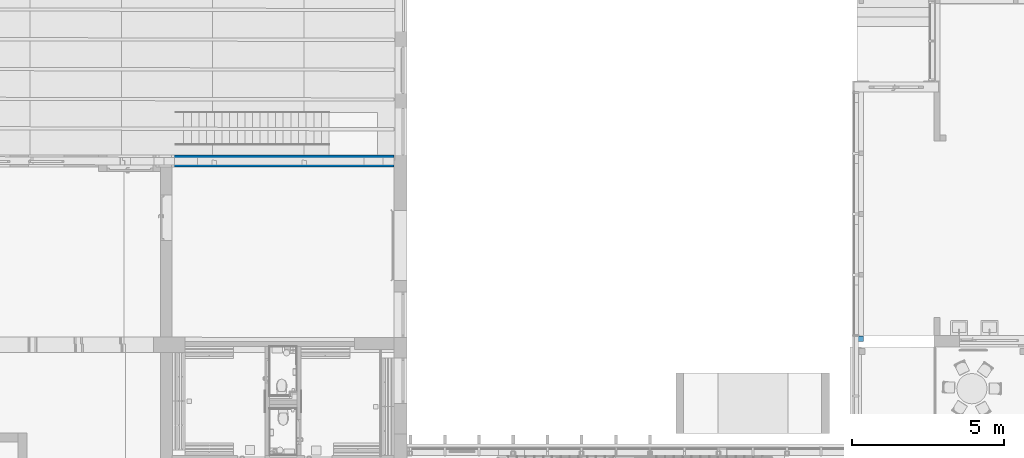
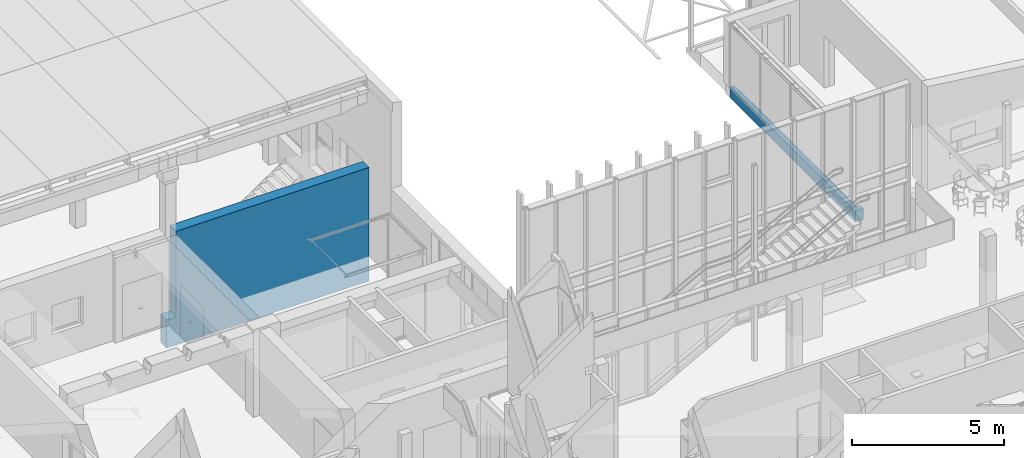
# One storey, part 132 of 301: 2 walls.
"""IFC2X3 building model written with IfcOpenShell, lengths in millimetres."""

from ifc_helpers import new_model, entity, si_unit, converted_unit, derived_unit, money_unit, direction, frame, origin_with_axes, place, context, subcontext, project, spatial, faceted_brep, material, type_object, element, save


model = new_model("IFC2X3")

# Units and contexts
model_context = context("Model", 3, precision=0.01, world=origin_with_axes(), true_north=direction((0.0, 1.0)))
body_context = subcontext(model_context, "Body", "Model", "MODEL_VIEW")
ifc_project = project(units=[si_unit("LENGTHUNIT", "METRE", prefix="MILLI"), si_unit("AREAUNIT", "SQUARE_METRE"), si_unit("VOLUMEUNIT", "CUBIC_METRE"), converted_unit("PLANEANGLEUNIT", "DEGREE", entity("IfcPlaneAngleMeasure", 0.0174532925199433), si_unit("PLANEANGLEUNIT", "RADIAN"), dimensions=[0, 0, 0, 0, 0, 0, 0]), money_unit("EUR"), converted_unit("TIMEUNIT", "Year", entity("IfcTimeMeasure", 31557600.0), si_unit("TIMEUNIT", "SECOND"), dimensions=[0, 0, 1, 0, 0, 0, 0]), si_unit("MASSUNIT", "GRAM", prefix="KILO"), si_unit("THERMODYNAMICTEMPERATUREUNIT", "DEGREE_CELSIUS"), si_unit("LUMINOUSINTENSITYUNIT", "LUMEN"), si_unit("ENERGYUNIT", "JOULE", prefix="MEGA"), derived_unit("THERMALCONDUCTANCEUNIT", [(si_unit("POWERUNIT", "WATT"), 1), (si_unit("LENGTHUNIT", "METRE"), -1), (si_unit("THERMODYNAMICTEMPERATUREUNIT", "KELVIN"), -1)]), derived_unit("SPECIFICHEATCAPACITYUNIT", [(si_unit("ENERGYUNIT", "JOULE"), 1), (si_unit("MASSUNIT", "GRAM", prefix="KILO"), -1), (si_unit("THERMODYNAMICTEMPERATUREUNIT", "KELVIN"), -1)]), derived_unit("MASSDENSITYUNIT", [(si_unit("MASSUNIT", "GRAM", prefix="KILO"), 1), (si_unit("VOLUMEUNIT", "CUBIC_METRE"), -1)])], contexts=[model_context])

# Site, building, storey
site_placement = place(None, frame((0.0, 0.0, 8650.0), z_axis=(0.0, 0.0, 1.0), x_axis=(1.0, 0.0, 0.0)))
site = spatial("IfcSite", under=ifc_project, at=site_placement, Name="43301:001:0844", CompositionType="ELEMENT")
building_placement = place(site_placement, origin_with_axes())
building = spatial("IfcBuilding", under=site, at=building_placement, Name="Kuressaare Ametikooli tuulikute mehaanikute õppekorpus", CompositionType="ELEMENT")
storey_placement = place(building_placement, origin_with_axes())
storey = spatial("IfcBuildingStorey", under=building, at=storey_placement, Name="1.korrus", CompositionType="ELEMENT", Elevation=0.0)

# Walls
ifc_material = material(Name="GENEERILINE - KONSTRUKTRIOON")
wall_type_1 = type_object("IfcWallType", Name="GENEERILINE - KONSTRUKTRIOON 310", PredefinedType="NOTDEFINED")
wall_1_placement = place(storey_placement, frame((118344.9290755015, 40646.6348696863, -450.0), z_axis=(0.0, 0.0, 1.0), x_axis=(0.0, -1.0, 0.0)))
element("IfcWall", 1, at=wall_1_placement, inside=storey, type_object=wall_type_1, material=ifc_material, Name="VS-XX", context=body_context, shape_type="Brep", body=[
    faceted_brep([(328.000000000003, 0.0, 450.0), (328.000000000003, 149.6199638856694, 450.0), (328.000000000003, 149.6199638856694, 250.0), (328.000000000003, 310.0000000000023, 250.0), (328.000000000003, 310.0000000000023, 0.0), (328.000000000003, 0.0, 0.0), (8353.922567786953, 304.1158147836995, 450.0), (8356.976217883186, 149.6199638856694, 450.0), (8537.807639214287, 0.0, 450.0), (8537.807639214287, 310.0000000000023, 450.0), (8337.807625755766, 310.0000000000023, 450.0), (8337.807625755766, 304.1158147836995, 450.0), (8356.976217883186, 149.6199638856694, 250.0), (8337.807625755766, 304.1158147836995, 250.0), (8337.807625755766, 310.0000000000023, 250.0), (8353.922567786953, 304.1158147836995, 250.0), (8537.807639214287, 310.0000000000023, 0.0), (8537.807639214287, 0.0, 0.0)], [[[0, 1, 2, 3, 4, 5]], [[6, 7, 1, 0, 8, 9, 10, 11]], [[12, 2, 1, 7]], [[13, 14, 3, 2, 12, 15]], [[3, 14, 10, 9, 16, 4]], [[5, 4, 16, 17]], [[0, 5, 17, 8]], [[12, 7, 6, 15]], [[8, 17, 16, 9]], [[13, 11, 10, 14]], [[15, 6, 11, 13]]]),
])
wall_type_2 = type_object("IfcWallType", Name="GENEERILINE - KONSTRUKTRIOON 400", PredefinedType="NOTDEFINED")
wall_2_placement = place(storey_placement, frame((103647.5122070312, 37845.7716648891, -1000.0), z_axis=(0.0, 0.0, 1.0), x_axis=(-1.0, 0.0, 0.0)))
element("IfcWall", 2, at=wall_2_placement, inside=storey, type_object=wall_type_2, material=ifc_material, context=body_context, shape_type="Brep", body=[
    faceted_brep([(8099.611090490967, -399.9999999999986, 0.0), (8099.611090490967, -399.9999999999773, 1130.0), (7745.463637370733, -399.9999999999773, 1130.0), (7745.463637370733, -399.9999999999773, 4560.000000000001), (420.0000000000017, -399.9999999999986, 4560.000000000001), (420.0000000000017, -399.9999999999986, 0.0), (8099.611090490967, 0.0, 0.0), (8099.611090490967, 0.0, 1130.0), (7745.463637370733, 0.0, 1130.0), (7745.463637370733, 0.0, 4560.000000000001), (420.0000000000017, 0.0, 4560.000000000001), (420.0000000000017, 0.0, 0.0)], [[[0, 1, 2, 3, 4, 5]], [[6, 7, 1, 0]], [[8, 2, 1, 7]], [[8, 9, 3, 2]], [[4, 3, 9, 10]], [[11, 5, 4, 10]], [[5, 11, 6, 0]], [[9, 8, 7, 6, 11, 10]]]),
])

save(model, "model.ifc")
